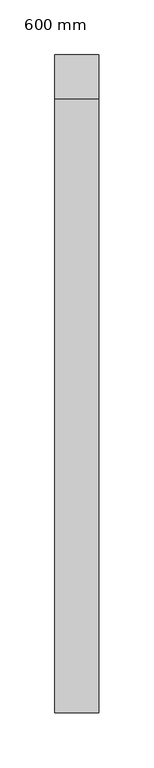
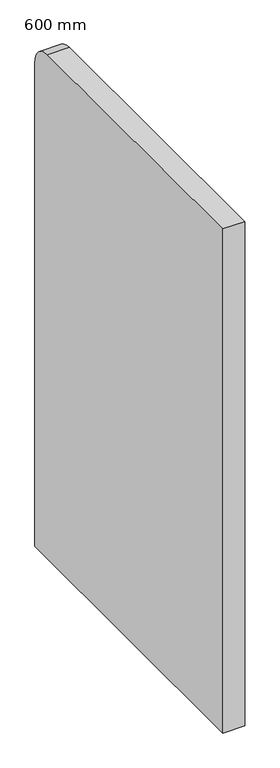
"""IFC4 building model written with IfcOpenShell, lengths in millimetres: furniture geometry, MATERIA-Monolite-Endpiece : 600 mm."""

from ifc_helpers import new_model, si_unit, point, frame, frame_2d, origin, place, context, project, spatial, polyline, circle_curve, trimmed, segment, composite_curve, outline, extrude, source, transform, mapped, element, save


def furniture_600_mm_d9a1362c(model_context):
    return source(origin(), model_context, "Body", "SweptSolid", [
        extrude(outline(composite_curve([segment(trimmed(circle_curve(frame_2d((560.0000591, 1190.0)), 40.0), [point((560.0000591, 1230.0))], [point((600.0000591, 1190.0))], False, "CARTESIAN"), True, "CONTINUOUS"), segment(polyline([(600.0000591, 1190.0), (600.0000591, 248.0), (0.0, 248.0), (0.0, 1230.0), (560.0000591, 1230.0)]), True, "CONTINUOUS")], self_intersect=False)), frame((-39.9999749, 0.0, 0.0), z_axis=(1.0, 0.0, 0.0), x_axis=(0.0, 1.0, 0.0)), (0.0, 0.0, 1.0), 39.9999749),
    ])


if __name__ == "__main__":
    model = new_model("IFC4")
    model_context = context("Model", 3, world=origin())
    ifc_project = project(units=[si_unit("LENGTHUNIT", "METRE", prefix="MILLI")], contexts=[model_context])
    site = spatial("IfcSite", under=ifc_project)
    building = spatial("IfcBuilding", under=site)
    placement = place(None, origin())
    furniture_600_mm_shape = furniture_600_mm_d9a1362c(model_context)
    element("IfcFurniture", 1, ObjectType="MATERIA-Monolite-Endpiece : 600 mm", at=placement, inside=building, context=model_context, shape_type="MappedRepresentation", body=[
        mapped(furniture_600_mm_shape, transform((0.0, 0.0, 0.0), x_axis=(1.0, 0.0, 0.0), y_axis=(0.0, 1.0, 0.0), z_axis=(0.0, 0.0, 1.0))),
    ])
    save(model, "model.ifc")
